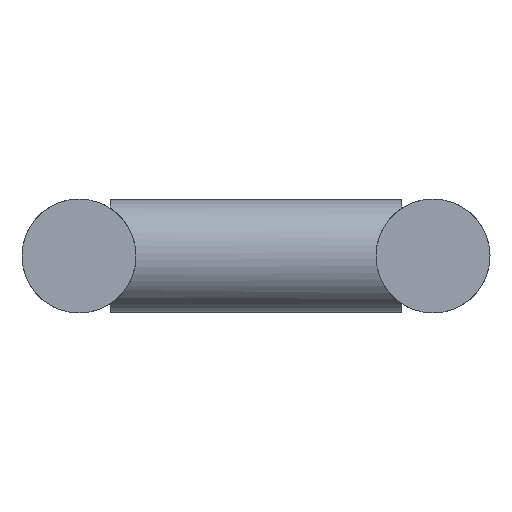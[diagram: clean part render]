
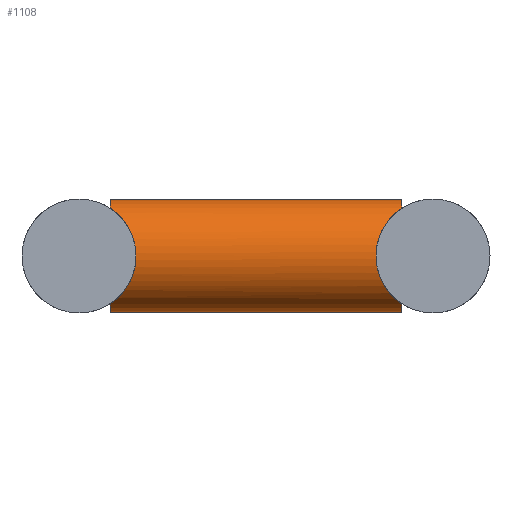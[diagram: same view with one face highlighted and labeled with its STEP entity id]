
A CAD part, left-side view. The second image highlights one B-rep face of the part: STEP entity #1108.
In plain terms, the highlighted cylindrical face has radius 24.15 mm (diameter 48.3 mm), a full revolution.
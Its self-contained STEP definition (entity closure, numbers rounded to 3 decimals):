
#37=FACE_BOUND('',#232,.T.);
#99=ELLIPSE('',#1206,34.153,24.15);
#100=ELLIPSE('',#1207,34.153,24.15);
#101=ELLIPSE('',#1208,34.153,24.15);
#102=ELLIPSE('',#1209,34.153,24.15);
#126=CYLINDRICAL_SURFACE('',#1205,24.15);
#161=FACE_OUTER_BOUND('',#231,.T.);
#231=EDGE_LOOP('',(#753,#754,#755,#756));
#232=EDGE_LOOP('',(#757,#758,#759,#760));
#341=CIRCLE('',#1198,24.15);
#342=CIRCLE('',#1200,24.15);
#343=CIRCLE('',#1202,24.15);
#344=CIRCLE('',#1204,24.15);
#477=VERTEX_POINT('',#1738);
#478=VERTEX_POINT('',#1739);
#479=VERTEX_POINT('',#1743);
#480=VERTEX_POINT('',#1744);
#481=VERTEX_POINT('',#1748);
#482=VERTEX_POINT('',#1749);
#483=VERTEX_POINT('',#1753);
#484=VERTEX_POINT('',#1754);
#594=EDGE_CURVE('',#477,#478,#341,.T.);
#596=EDGE_CURVE('',#479,#480,#342,.T.);
#598=EDGE_CURVE('',#481,#482,#343,.T.);
#600=EDGE_CURVE('',#483,#484,#344,.T.);
#601=EDGE_CURVE('',#480,#477,#99,.T.);
#602=EDGE_CURVE('',#478,#479,#100,.T.);
#603=EDGE_CURVE('',#484,#481,#101,.T.);
#604=EDGE_CURVE('',#482,#483,#102,.T.);
#753=ORIENTED_EDGE('',*,*,#601,.F.);
#754=ORIENTED_EDGE('',*,*,#596,.F.);
#755=ORIENTED_EDGE('',*,*,#602,.F.);
#756=ORIENTED_EDGE('',*,*,#594,.F.);
#757=ORIENTED_EDGE('',*,*,#603,.F.);
#758=ORIENTED_EDGE('',*,*,#600,.F.);
#759=ORIENTED_EDGE('',*,*,#604,.F.);
#760=ORIENTED_EDGE('',*,*,#598,.F.);
#1108=ADVANCED_FACE('',(#161,#37),#126,.T.);
#1198=AXIS2_PLACEMENT_3D('',#1741,#1408,#1409);
#1200=AXIS2_PLACEMENT_3D('',#1746,#1413,#1414);
#1202=AXIS2_PLACEMENT_3D('',#1751,#1418,#1419);
#1204=AXIS2_PLACEMENT_3D('',#1756,#1423,#1424);
#1205=AXIS2_PLACEMENT_3D('',#1757,#1425,#1426);
#1206=AXIS2_PLACEMENT_3D('',#1758,#1427,#1428);
#1207=AXIS2_PLACEMENT_3D('',#1759,#1429,#1430);
#1208=AXIS2_PLACEMENT_3D('',#1760,#1431,#1432);
#1209=AXIS2_PLACEMENT_3D('',#1761,#1433,#1434);
#1408=DIRECTION('center_axis',(0.,1.,0.));
#1409=DIRECTION('ref_axis',(1.,0.,0.));
#1413=DIRECTION('center_axis',(0.,1.,0.));
#1414=DIRECTION('ref_axis',(1.,0.,0.));
#1418=DIRECTION('center_axis',(0.,-1.,0.));
#1419=DIRECTION('ref_axis',(1.,0.,0.));
#1423=DIRECTION('center_axis',(0.,-1.,0.));
#1424=DIRECTION('ref_axis',(1.,0.,0.));
#1425=DIRECTION('center_axis',(0.,-1.,0.));
#1426=DIRECTION('ref_axis',(1.,0.,0.));
#1427=DIRECTION('center_axis',(-0.707,0.707,0.));
#1428=DIRECTION('ref_axis',(0.707,0.707,0.));
#1429=DIRECTION('center_axis',(0.707,0.707,0.));
#1430=DIRECTION('ref_axis',(0.707,-0.707,0.));
#1431=DIRECTION('center_axis',(0.707,-0.707,0.));
#1432=DIRECTION('ref_axis',(0.707,0.707,0.));
#1433=DIRECTION('center_axis',(-0.707,-0.707,0.));
#1434=DIRECTION('ref_axis',(0.707,-0.707,0.));
#1738=CARTESIAN_POINT('',(63.,61.85,20.256));
#1739=CARTESIAN_POINT('',(89.3,61.85,20.256));
#1741=CARTESIAN_POINT('Origin',(76.15,61.85,0.));
#1743=CARTESIAN_POINT('',(89.3,61.85,-20.256));
#1744=CARTESIAN_POINT('',(63.,61.85,-20.256));
#1746=CARTESIAN_POINT('Origin',(76.15,61.85,0.));
#1748=CARTESIAN_POINT('',(89.3,-61.85,20.256));
#1749=CARTESIAN_POINT('',(63.,-61.85,20.256));
#1751=CARTESIAN_POINT('Origin',(76.15,-61.85,0.));
#1753=CARTESIAN_POINT('',(63.,-61.85,-20.256));
#1754=CARTESIAN_POINT('',(89.3,-61.85,-20.256));
#1756=CARTESIAN_POINT('Origin',(76.15,-61.85,0.));
#1757=CARTESIAN_POINT('Origin',(76.15,61.85,0.));
#1758=CARTESIAN_POINT('Origin',(76.15,75.,0.));
#1759=CARTESIAN_POINT('Origin',(76.15,75.,0.));
#1760=CARTESIAN_POINT('Origin',(76.15,-75.,0.));
#1761=CARTESIAN_POINT('Origin',(76.15,-75.,0.));
